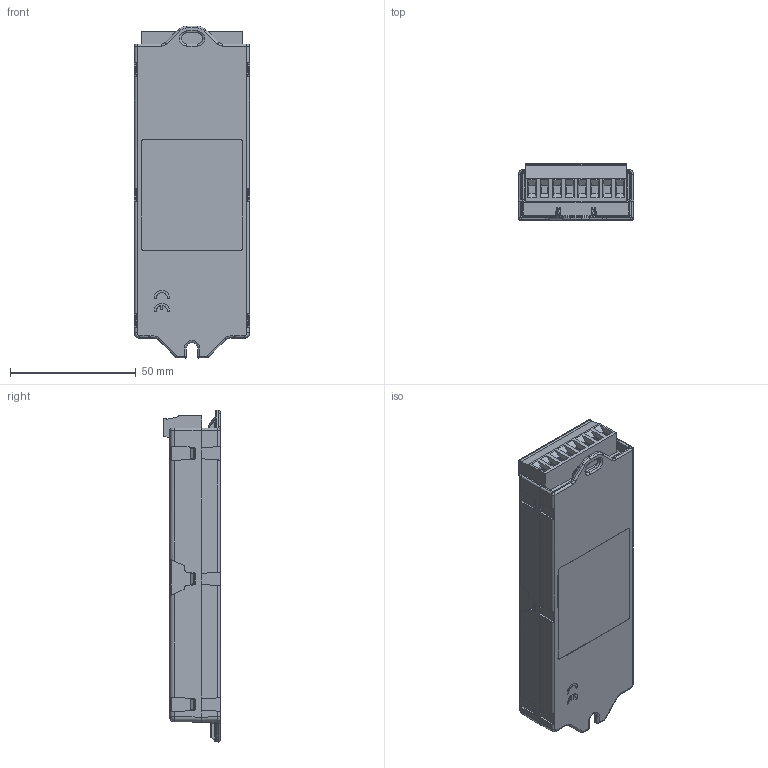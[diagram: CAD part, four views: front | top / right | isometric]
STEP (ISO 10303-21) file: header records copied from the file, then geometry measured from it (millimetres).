
FILE_DESCRIPTION(/* description */ (''),/* implementation_level */ '2;1');
FILE_NAME(/* name */ 'KNX_TP_Blue_IO_550_CV_secure.stp',/* time_stamp */ '2025-10-02T15:06:59+02:00',/* author */ (''),/* organization */ (''),/* preprocessor_version */ 'ST-DEVELOPER v20',/* originating_system */ 'Autodesk Inventor 2025',/* authorisation */ '');
FILE_SCHEMA (('AUTOMOTIVE_DESIGN { 1 0 10303 214 3 1 1 }'));
Length unit declared in the file: millimetre
Products named in the file (1): KNX_TP_Blue_IO_550_CV_secure
Bounding box: 46 x 22.4 x 132.17 mm (x, y, z)
Volume: 103564.2 mm3; surface area: 24338.1 mm2
Topology: 1 solids, 1 shells, 1344 faces, 3657 edges, 2270 vertices
Faces by surface type: plane 755, cylinder 363, bspline 121, torus 51, cone 34, sphere 20
Full cylindrical faces by diameter (mm): 1 x2, 1.1 x2, 1.4 x2, 3.5 x3, 4 x19
Entity records: 46552 total; most frequent: CARTESIAN_POINT 11285, ORIENTED_EDGE 7256, DIRECTION 6923, EDGE_CURVE 3628, LINE 2385, VECTOR 2385, VERTEX_POINT 2270, AXIS2_PLACEMENT_3D 2269
